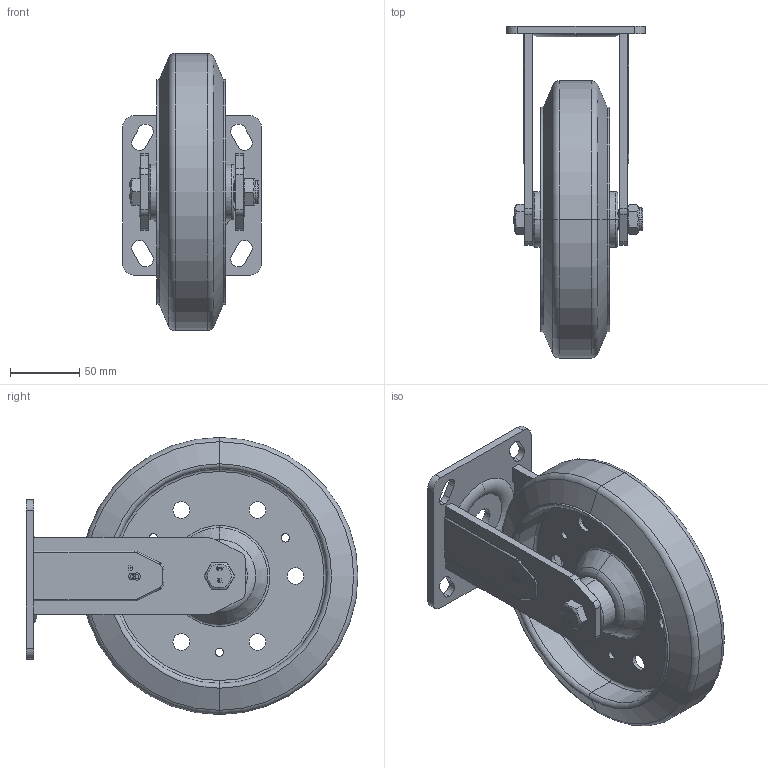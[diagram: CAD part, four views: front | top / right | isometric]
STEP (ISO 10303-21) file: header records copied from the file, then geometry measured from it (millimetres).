
FILE_DESCRIPTION (( 'STEP AP203' ), '1' );
FILE_NAME ('重型8寸定向.STEP', '2024-04-12T09:41:04', ( '微软用户' ), ( '微软中国' ), 'SwSTEP 2.0', 'SolidWorks 2008', '' );
FILE_SCHEMA (( 'CONFIG_CONTROL_DESIGN' ));
Length unit declared in the file: millimetre
Products named in the file (6): 笭倰8渡隅砃; 8寸橡胶轮_默认; M7 重型固定底板_默认; 12｡ﾁ85ﾂﾝｸﾋ_ﾄｬﾈﾏ; M12螺母_默认; M7 8寸定向臂_默认
Assembly tree (5 placements, depth 2):
  笭倰8渡隅砃
    M7 重型固定底板_默认
    8寸橡胶轮_默认
    M7 8寸定向臂_默认
    12｡ﾁ85ﾂﾝｸﾋ_ﾄｬﾈﾏ
    M12螺母_默认
Bounding box: 100 x 239.5 x 200 mm (x, y, z)
Volume: 820551.9 mm3; surface area: 181552.2 mm2
Topology: 6 solids, 6 shells, 373 faces, 925 edges, 592 vertices
Faces by surface type: plane 149, cylinder 106, bspline 56, torus 44, cone 18
Entity records: 17139 total; most frequent: CARTESIAN_POINT 7820, ORIENTED_EDGE 1850, DIRECTION 1708, EDGE_CURVE 925, AXIS2_PLACEMENT_3D 613, VERTEX_POINT 592, VECTOR 482, LINE 482
